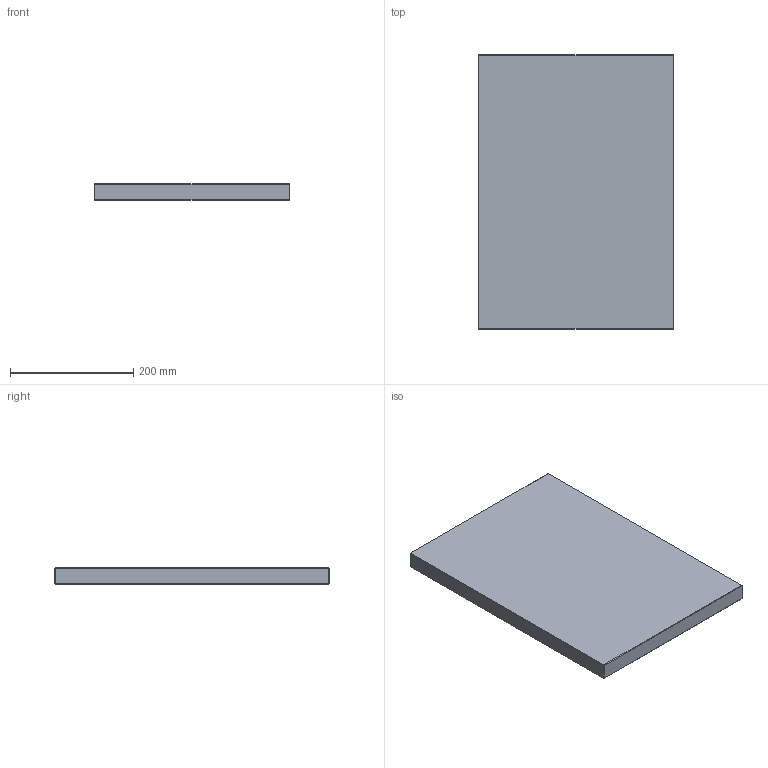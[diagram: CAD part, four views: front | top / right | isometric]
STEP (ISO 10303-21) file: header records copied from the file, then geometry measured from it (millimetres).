
FILE_DESCRIPTION (( 'STEP AP214' ), '1' );
FILE_NAME ('CPE-P-446x446x27.STEP', '2021-03-25T14:06:56', ( '' ), ( '' ), 'SwSTEP 2.0', 'SolidWorks 2018', '' );
FILE_SCHEMA (( 'AUTOMOTIVE_DESIGN' ));
Length unit declared in the file: millimetre
Products named in the file (1): CPE-P-446x446x27
Bounding box: 318 x 446 x 27 mm (x, y, z)
Volume: 3827779.3 mm3; surface area: 323055.6 mm2
Topology: 1 solids, 1 shells, 26 faces, 48 edges, 24 vertices
Faces by surface type: plane 26
Entity records: 634 total; most frequent: DIRECTION 102, CARTESIAN_POINT 99, ORIENTED_EDGE 96, VECTOR 48, EDGE_CURVE 48, LINE 48, AXIS2_PLACEMENT_3D 27, EDGE_LOOP 26
